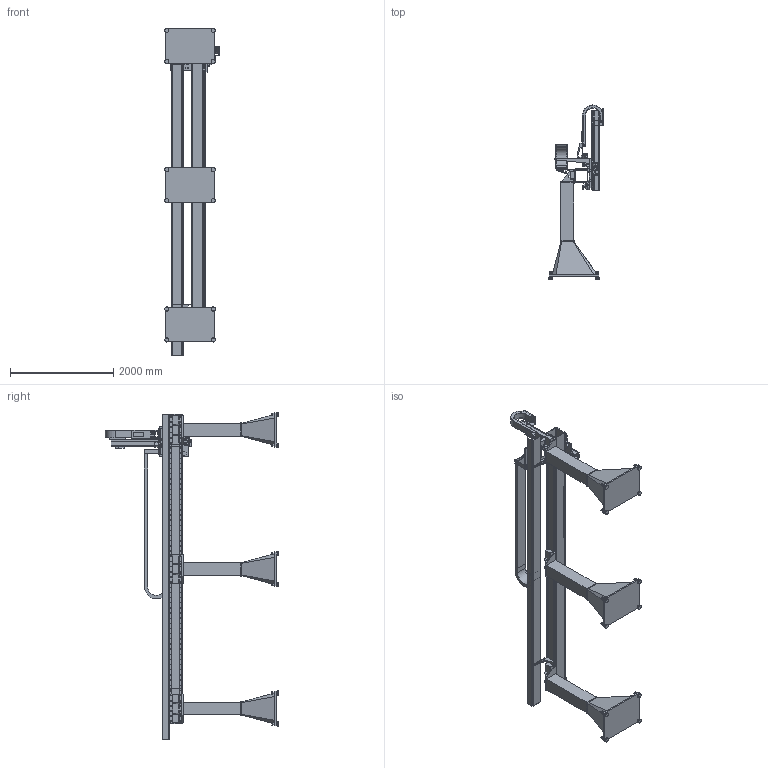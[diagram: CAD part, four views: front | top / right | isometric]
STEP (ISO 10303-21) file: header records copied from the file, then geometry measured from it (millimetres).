
FILE_DESCRIPTION (( 'STEP AP203' ), '1' );
FILE_NAME ('ZP-4_V4_10-00000514-001.STEP', '2019-12-03T07:26:58', ( '' ), ( '' ), 'SwSTEP 2.0', 'SolidWorks 2017', '' );
FILE_SCHEMA (( 'CONFIG_CONTROL_DESIGN' ));
Length unit declared in the file: millimetre
Products named in the file (17): 10-00000514-017_.; 10-00000514-006_.; 10-00000514-015_.; 10-00000514-004_.; 10-00000514-014_.; 10-00000514-023_-; 10-00000514-013_.__mid; 10-00000514-002_.; 10-00000514-020_.; 10-00000514-008_.; 10-00000514-005_.; 10-00000514-016_.; ZP-4_V4_10-00000514-001; 10-00000514-012_.; 10-00000514-011_.; 10-00000514-009_.; 10-00000514-010_.
Assembly tree (21 placements, depth 4):
  ZP-4_V4_10-00000514-001
    10-00000514-011_.
    10-00000514-010_.  x2
    10-00000514-006_.  x2
    10-00000514-016_.
      10-00000514-002_.
        10-00000514-004_.
        10-00000514-023_-  x2
      10-00000514-008_.
    10-00000514-017_.
      10-00000514-012_.
      10-00000514-009_.
    10-00000514-013_.__mid  x3
      10-00000514-015_.
      10-00000514-014_.
    10-00000514-020_.
    10-00000514-005_.
Bounding box: 1055.7 x 3367.01 x 6345 mm (x, y, z)
Volume: 172260021 mm3; surface area: 43584993 mm2
Topology: 20 solids, 54 shells, 3587 faces, 9116 edges, 5745 vertices
Faces by surface type: plane 1745, cylinder 1488, cone 346, torus 8
Entity records: 65842 total; most frequent: CARTESIAN_POINT 12852, DIRECTION 10679, ORIENTED_EDGE 10442, EDGE_CURVE 5231, AXIS2_PLACEMENT_3D 3771, VERTEX_POINT 3372, LINE 3137, VECTOR 3137
